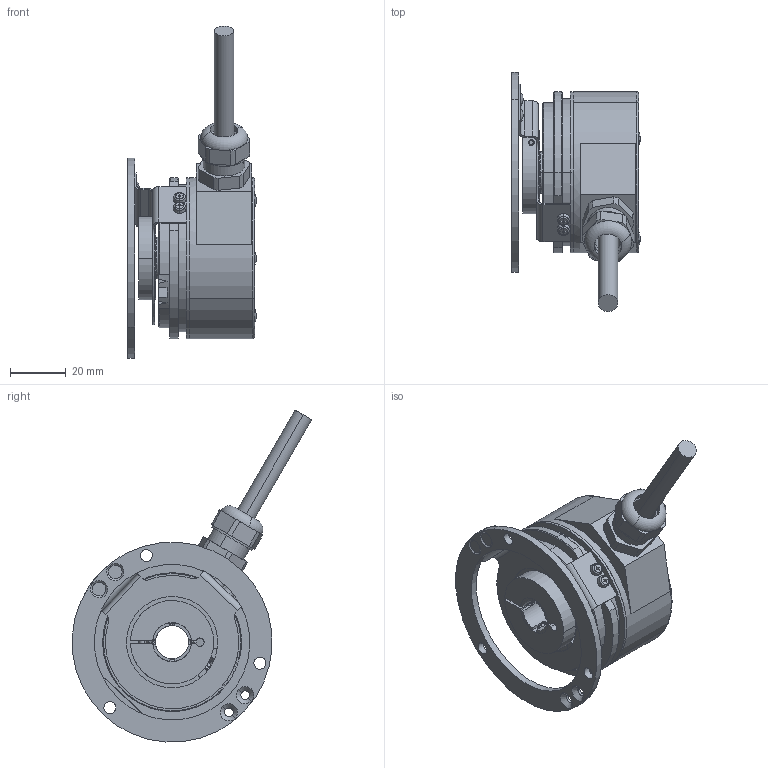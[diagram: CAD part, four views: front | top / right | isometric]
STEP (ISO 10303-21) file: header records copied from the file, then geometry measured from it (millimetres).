
FILE_DESCRIPTION (( 'STEP AP203' ), '1' );
FILE_NAME ('8.5824.37X1.XXXX.STEP', '2012-03-21T09:26:26', ( 'Hodot' ), ( 'Kuebler' ), 'SwSTEP 2.0', 'SolidWorks 2009', '' );
FILE_SCHEMA (( 'CONFIG_CONTROL_DESIGN' ));
Length unit declared in the file: millimetre
Products named in the file (1): 8.5824.37X1.XXXX
Bounding box: 46.38 x 86.19 x 119.49 mm (x, y, z)
Volume: 57632.1 mm3; surface area: 45769.5 mm2
Topology: 21 solids, 21 shells, 620 faces, 1480 edges, 921 vertices
Faces by surface type: cylinder 232, plane 226, cone 112, torus 40, sphere 10
Entity records: 18357 total; most frequent: CARTESIAN_POINT 3510, DIRECTION 3314, ORIENTED_EDGE 2904, EDGE_CURVE 1452, AXIS2_PLACEMENT_3D 1305, VERTEX_POINT 921, EDGE_LOOP 723, VECTOR 704
